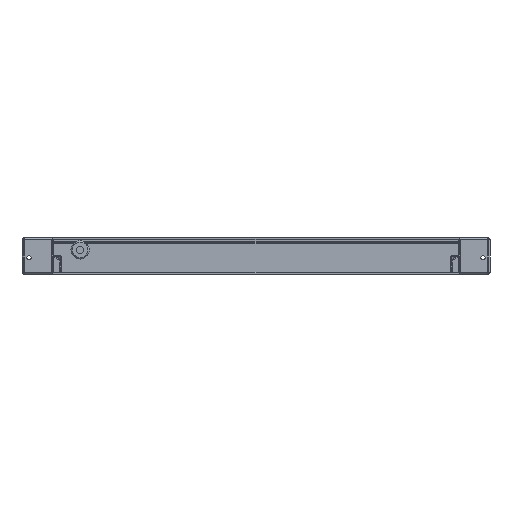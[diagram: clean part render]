
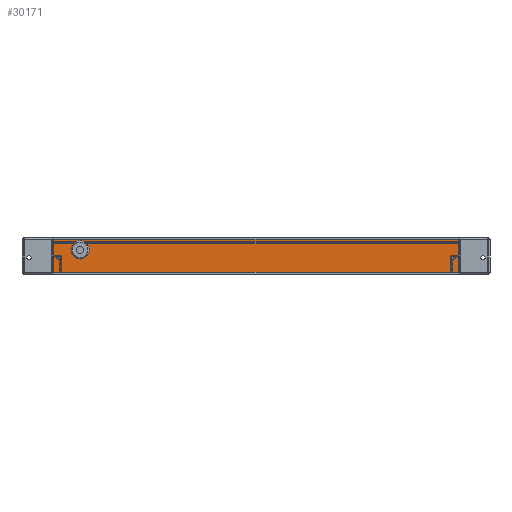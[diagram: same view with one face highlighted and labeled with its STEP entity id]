
A CAD part, front view. The second image highlights one B-rep face of the part: STEP entity #30171.
In plain terms, the highlighted planar face has unit normal (0, -1, 0).
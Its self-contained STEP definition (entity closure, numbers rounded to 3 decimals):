
#25176 = CIRCLE ( 'NONE', #25298, 15. ) ;
#25180 = DIRECTION ( 'NONE',  ( -1., 0., 0. ) ) ;
#25181 = VECTOR ( 'NONE', #25180, 1000. ) ;
#25185 = CARTESIAN_POINT ( 'NONE',  ( 333.5, -2., -26.5 ) ) ;
#25190 = DIRECTION ( 'NONE',  ( 0., 0., -1. ) ) ;
#25191 = DIRECTION ( 'NONE',  ( 0., -1., 0. ) ) ;
#25225 = CIRCLE ( 'NONE', #25382, 3.5 ) ;
#25233 = CARTESIAN_POINT ( 'NONE',  ( -290., -2., 25. ) ) ;
#25293 = CARTESIAN_POINT ( 'NONE',  ( -290., -2., 10. ) ) ;
#25298 = AXIS2_PLACEMENT_3D ( 'NONE', #25293, #25306, #25515 ) ;
#25300 = DIRECTION ( 'NONE',  ( 0., 0., -1. ) ) ;
#25302 = DIRECTION ( 'NONE',  ( 0., -1., 0. ) ) ;
#25303 = CARTESIAN_POINT ( 'NONE',  ( 325., -2., -3. ) ) ;
#25304 = CIRCLE ( 'NONE', #25403, 3.5 ) ;
#25306 = DIRECTION ( 'NONE',  ( 0., -1., 0. ) ) ;
#25365 = CARTESIAN_POINT ( 'NONE',  ( 325., -2., 0.5 ) ) ;
#25373 = CARTESIAN_POINT ( 'NONE',  ( -290., -2., -5. ) ) ;
#25377 = DIRECTION ( 'NONE',  ( 0., 0., -1. ) ) ;
#25379 = DIRECTION ( 'NONE',  ( 0., -1., 0. ) ) ;
#25381 = CARTESIAN_POINT ( 'NONE',  ( -325., -2., -3. ) ) ;
#25382 = AXIS2_PLACEMENT_3D ( 'NONE', #25381, #25379, #25377 ) ;
#25386 = CIRCLE ( 'NONE', #25399, 3.5 ) ;
#25399 = AXIS2_PLACEMENT_3D ( 'NONE', #25419, #25191, #25190 ) ;
#25403 = AXIS2_PLACEMENT_3D ( 'NONE', #25303, #25302, #25300 ) ;
#25412 = CARTESIAN_POINT ( 'NONE',  ( 0., -2., -26.5 ) ) ;
#25419 = CARTESIAN_POINT ( 'NONE',  ( 325., -2., -3. ) ) ;
#25437 = CARTESIAN_POINT ( 'NONE',  ( 325., -2., -6.5 ) ) ;
#25515 = DIRECTION ( 'NONE',  ( 0., 0., -1. ) ) ;
#25560 = LINE ( 'NONE', #25412, #25181 ) ;
#26238 = DIRECTION ( 'NONE',  ( 0., 0., -1. ) ) ;
#26239 = DIRECTION ( 'NONE',  ( 0., -1., 0. ) ) ;
#26240 = CARTESIAN_POINT ( 'NONE',  ( -325., -2., -3. ) ) ;
#26241 = AXIS2_PLACEMENT_3D ( 'NONE', #26240, #26239, #26238 ) ;
#26245 = CARTESIAN_POINT ( 'NONE',  ( 333.5, -2., 0. ) ) ;
#26246 = LINE ( 'NONE', #26245, #26273 ) ;
#26247 = AXIS2_PLACEMENT_3D ( 'NONE', #26255, #26254, #26253 ) ;
#26253 = DIRECTION ( 'NONE',  ( 0., 0., -1. ) ) ;
#26254 = DIRECTION ( 'NONE',  ( 0., -1., 0. ) ) ;
#26255 = CARTESIAN_POINT ( 'NONE',  ( -290., -2., 10. ) ) ;
#26256 = CIRCLE ( 'NONE', #26247, 15. ) ;
#26272 = DIRECTION ( 'NONE',  ( 0., 0., -1. ) ) ;
#26273 = VECTOR ( 'NONE', #26272, 1000. ) ;
#26359 = CARTESIAN_POINT ( 'NONE',  ( -325., -2., 0.5 ) ) ;
#26415 = CIRCLE ( 'NONE', #26241, 3.5 ) ;
#26424 = CARTESIAN_POINT ( 'NONE',  ( -333.5, -2., 26.5 ) ) ;
#26425 = CARTESIAN_POINT ( 'NONE',  ( -325., -2., -6.5 ) ) ;
#26453 = CARTESIAN_POINT ( 'NONE',  ( 333.5, -2., 26.5 ) ) ;
#26454 = CARTESIAN_POINT ( 'NONE',  ( -333.5, -2., -26.5 ) ) ;
#26455 = DIRECTION ( 'NONE',  ( 1., 0., 0. ) ) ;
#26456 = VECTOR ( 'NONE', #26455, 1000. ) ;
#26457 = CARTESIAN_POINT ( 'NONE',  ( 0., -2., 26.5 ) ) ;
#26458 = LINE ( 'NONE', #26457, #26456 ) ;
#26462 = DIRECTION ( 'NONE',  ( 0., 0., 1. ) ) ;
#26463 = VECTOR ( 'NONE', #26462, 1000. ) ;
#26464 = CARTESIAN_POINT ( 'NONE',  ( -333.5, -2., 0. ) ) ;
#26589 = DIRECTION ( 'NONE',  ( 0., 0., -1. ) ) ;
#26590 = DIRECTION ( 'NONE',  ( 0., -1., 0. ) ) ;
#26591 = CARTESIAN_POINT ( 'NONE',  ( 0., -2., 0. ) ) ;
#26592 = AXIS2_PLACEMENT_3D ( 'NONE', #26591, #26590, #26589 ) ;
#26593 = LINE ( 'NONE', #26464, #26463 ) ;
#26597 = FACE_BOUND ( 'NONE', #29670, .T. ) ;
#26598 = FACE_BOUND ( 'NONE', #29669, .T. ) ;
#26599 = FACE_OUTER_BOUND ( 'NONE', #29698, .T. ) ;
#26602 = FACE_BOUND ( 'NONE', #29664, .T. ) ;
#26643 = PLANE ( 'NONE',  #26592 ) ;
#29658 = EDGE_CURVE ( 'NONE', #29708, #29712, #25386, .T. ) ;
#29659 = EDGE_CURVE ( 'NONE', #29660, #30179, #25560, .T. ) ;
#29660 = VERTEX_POINT ( 'NONE', #25185 ) ;
#29663 = EDGE_CURVE ( 'NONE', #29712, #29708, #25304, .T. ) ;
#29664 = EDGE_LOOP ( 'NONE', ( #29665, #29668 ) ) ;
#29665 = ORIENTED_EDGE ( 'NONE', *, *, #29703, .F. ) ;
#29666 = ORIENTED_EDGE ( 'NONE', *, *, #30134, .F. ) ;
#29667 = ORIENTED_EDGE ( 'NONE', *, *, #29663, .F. ) ;
#29668 = ORIENTED_EDGE ( 'NONE', *, *, #30128, .F. ) ;
#29669 = EDGE_LOOP ( 'NONE', ( #29672, #29667 ) ) ;
#29670 = EDGE_LOOP ( 'NONE', ( #30159, #29666 ) ) ;
#29671 = EDGE_CURVE ( 'NONE', #29713, #29714, #25176, .T. ) ;
#29672 = ORIENTED_EDGE ( 'NONE', *, *, #29658, .F. ) ;
#29698 = EDGE_LOOP ( 'NONE', ( #29700, #30172, #30178, #30123 ) ) ;
#29700 = ORIENTED_EDGE ( 'NONE', *, *, #30177, .F. ) ;
#29703 = EDGE_CURVE ( 'NONE', #30124, #30125, #25225, .T. ) ;
#29708 = VERTEX_POINT ( 'NONE', #25365 ) ;
#29712 = VERTEX_POINT ( 'NONE', #25437 ) ;
#29713 = VERTEX_POINT ( 'NONE', #25233 ) ;
#29714 = VERTEX_POINT ( 'NONE', #25373 ) ;
#30120 = VERTEX_POINT ( 'NONE', #26424 ) ;
#30123 = ORIENTED_EDGE ( 'NONE', *, *, #30129, .F. ) ;
#30124 = VERTEX_POINT ( 'NONE', #26359 ) ;
#30125 = VERTEX_POINT ( 'NONE', #26425 ) ;
#30128 = EDGE_CURVE ( 'NONE', #30125, #30124, #26415, .T. ) ;
#30129 = EDGE_CURVE ( 'NONE', #30180, #29660, #26246, .T. ) ;
#30134 = EDGE_CURVE ( 'NONE', #29714, #29713, #26256, .T. ) ;
#30159 = ORIENTED_EDGE ( 'NONE', *, *, #29671, .F. ) ;
#30171 = ADVANCED_FACE ( 'NONE', ( #26599, #26602, #26598, #26597 ), #26643, .T. ) ;
#30172 = ORIENTED_EDGE ( 'NONE', *, *, #30176, .F. ) ;
#30176 = EDGE_CURVE ( 'NONE', #30179, #30120, #26593, .T. ) ;
#30177 = EDGE_CURVE ( 'NONE', #30120, #30180, #26458, .T. ) ;
#30178 = ORIENTED_EDGE ( 'NONE', *, *, #29659, .F. ) ;
#30179 = VERTEX_POINT ( 'NONE', #26454 ) ;
#30180 = VERTEX_POINT ( 'NONE', #26453 ) ;
